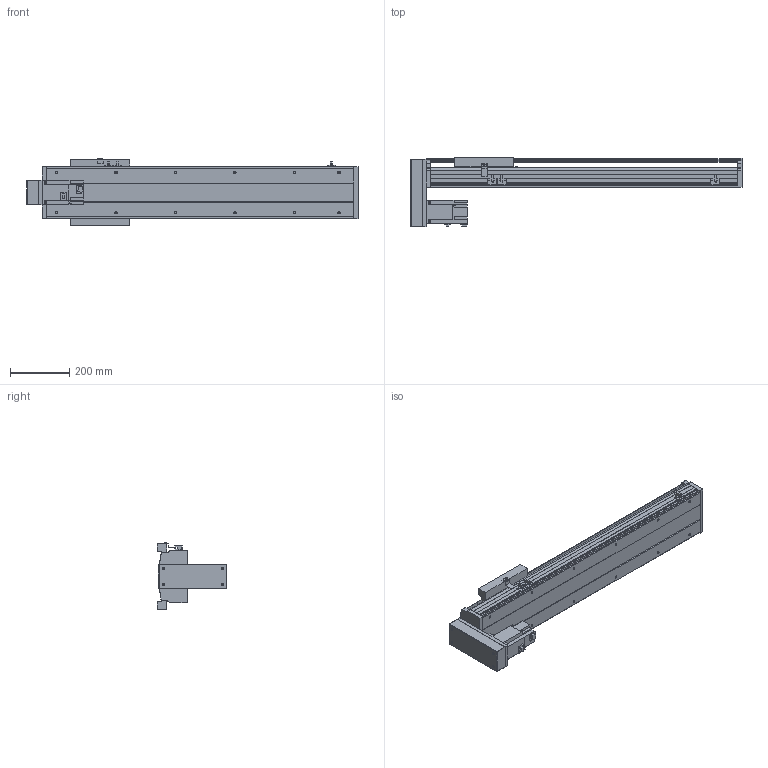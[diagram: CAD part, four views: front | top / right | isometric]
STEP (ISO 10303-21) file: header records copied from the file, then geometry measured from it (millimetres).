
FILE_DESCRIPTION(/* description */ ('STEP AP214'),/* implementation_level */ '2;1');
FILE_NAME(/* name */ 'PSS200-L10-S700-BM-T75-C1-N(0)',/* time_stamp */ '2022-06-06T04:44:51+02:00',/* author */ ('License CC BY-ND 4.0'),/* organization */ ('CADENAS'),/* preprocessor_version */ 'ST-DEVELOPER v18.102',/* originating_system */ 'PARTsolutions',/* authorisation */ ' ');
FILE_SCHEMA (('AUTOMOTIVE_DESIGN {1 0 10303 214 3 1 1}'));
Length unit declared in the file: millimetre
Products named in the file (8): PSS200-L10-S700-BM-T75-C1-N(0); PSS200-S700-BM-N_S; T75-p1; PSS200BM-N_h; PSS200-N_sensor; PSS200-BM-C1-N_sl; PSS200-N_Q; PSS200-S700-BM-C1-N_body
Assembly tree (9 placements, depth 2):
  PSS200-L10-S700-BM-T75-C1-N(0)
    PSS200-S700-BM-N_S
    T75-p1
    PSS200BM-N_h
    PSS200-N_sensor  x3
    PSS200-BM-C1-N_sl
    PSS200-N_Q
    PSS200-S700-BM-C1-N_body
Bounding box: 1116.85 x 234.45 x 223.86 mm (x, y, z)
Volume: 7915732.5 mm3; surface area: 1810630.7 mm2
Topology: 9 solids, 9 shells, 598 faces, 1601 edges, 1062 vertices
Faces by surface type: plane 452, cylinder 122, cone 20, sphere 4
Full cylindrical faces by diameter (mm): 4 x2, 4.5 x4, 6 x7, 6.647 x16, 7.4 x4, 8 x8, 10 x6, 25 x1, 40 x1, 67 x1
Entity records: 16636 total; most frequent: CARTESIAN_POINT 2885, DIRECTION 2747, ORIENTED_EDGE 2722, EDGE_CURVE 1361, LINE 1071, VECTOR 1071, VERTEX_POINT 944, AXIS2_PLACEMENT_3D 838
